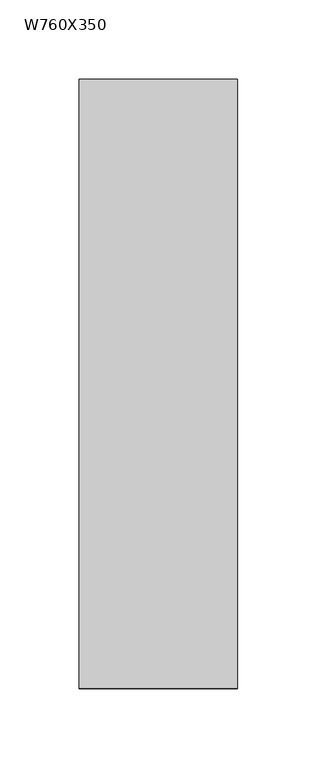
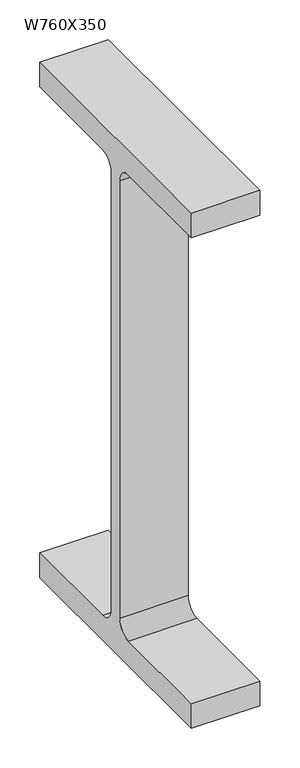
"""IFC4 building model written with IfcOpenShell, lengths in millimetres: beam geometry, M_W-Wide Flange : W760X350."""

from ifc_helpers import new_model, si_unit, point, frame, frame_2d, origin, place, context, project, spatial, polyline, circle_curve, trimmed, segment, composite_curve, outline, extrude, source, transform, mapped, element, save


def w760x350_bd663f35(model_context):
    return source(origin(), model_context, "Body", "SweptSolid", [
        extrude(outline(composite_curve([segment(polyline([(192.0, -359.4), (192.0, -397.5), (-192.0, -397.5), (-192.0, -359.4), (-32.75, -359.4)]), True, "CONTINUOUS"), segment(trimmed(circle_curve(frame_2d((-32.75, -337.2)), 22.2), [point((-32.75, -359.4))], [point((-10.55, -337.2))], True, "CARTESIAN"), True, "CONTINUOUS"), segment(polyline([(-10.55, -337.2), (-10.55, 337.2)]), True, "CONTINUOUS"), segment(trimmed(circle_curve(frame_2d((-32.75, 337.2)), 22.2), [point((-10.55, 337.2))], [point((-32.75, 359.4))], True, "CARTESIAN"), True, "CONTINUOUS"), segment(polyline([(-32.75, 359.4), (-192.0, 359.4), (-192.0, 397.5), (192.0, 397.5), (192.0, 359.4), (32.75, 359.4)]), True, "CONTINUOUS"), segment(trimmed(circle_curve(frame_2d((32.75, 337.2)), 22.2), [point((32.75, 359.4))], [point((10.55, 337.2))], True, "CARTESIAN"), True, "CONTINUOUS"), segment(polyline([(10.55, 337.2), (10.55, -337.2)]), True, "CONTINUOUS"), segment(trimmed(circle_curve(frame_2d((32.75, -337.2)), 22.2), [point((10.55, -337.2))], [point((32.75, -359.4))], True, "CARTESIAN"), True, "CONTINUOUS"), segment(polyline([(32.75, -359.4), (192.0, -359.4)]), True, "CONTINUOUS")], self_intersect=False)), frame((-50.0, 0.0, 0.0), z_axis=(1.0, 0.0, 0.0), x_axis=(0.0, 1.0, 0.0)), (0.0, 0.0, 1.0), 100.0),
    ])


if __name__ == "__main__":
    model = new_model("IFC4")
    model_context = context("Model", 3, world=origin())
    ifc_project = project(units=[si_unit("LENGTHUNIT", "METRE", prefix="MILLI")], contexts=[model_context])
    site = spatial("IfcSite", under=ifc_project)
    building = spatial("IfcBuilding", under=site)
    placement = place(None, origin())
    w760x350_shape = w760x350_bd663f35(model_context)
    element("IfcBeam", 1, ObjectType="M_W-Wide Flange : W760X350", at=placement, inside=building, context=model_context, shape_type="MappedRepresentation", body=[
        mapped(w760x350_shape, transform((0.0, 0.0, 0.0), x_axis=(1.0, 0.0, 0.0), y_axis=(0.0, 1.0, 0.0), z_axis=(0.0, 0.0, 1.0))),
    ])
    save(model, "model.ifc")
